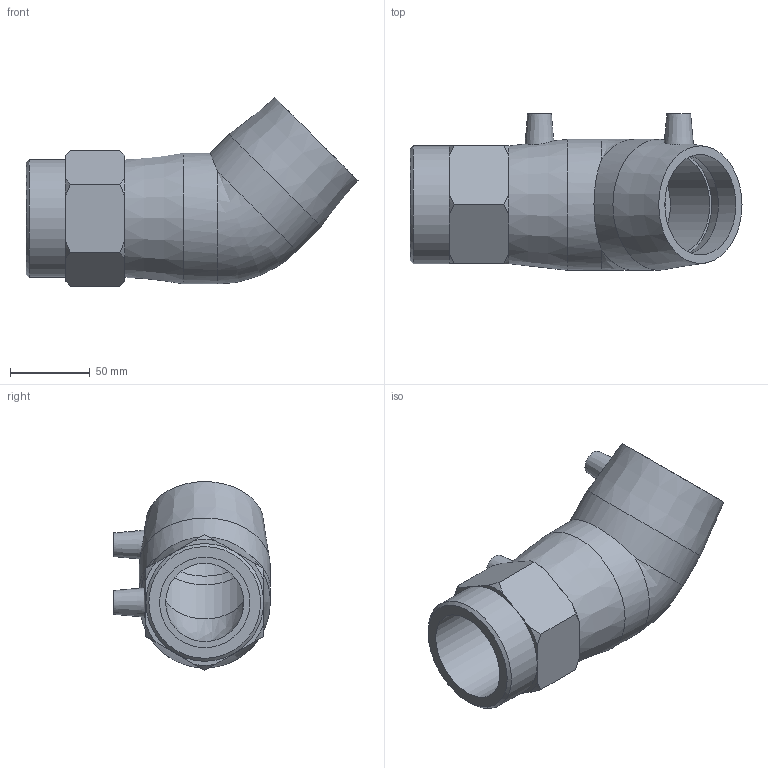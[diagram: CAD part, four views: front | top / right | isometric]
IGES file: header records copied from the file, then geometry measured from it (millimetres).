
Global section: file name: 493604063020N.ipt; native system: Autodesk Inventor 2015; preprocessor: unknown; author: KIM; date: 20200202.122506; units: millimetre
Bounding box: 208 x 98 x 118.37 mm (x, y, z)
Volume: 488053.1 mm3; surface area: 99830.4 mm2
Topology: 1 solids, 2 shells, 63 faces, 154 edges, 102 vertices
Faces by surface type: plane 28, cone 17, revolution 9, cylinder 8, bspline 1
Full cylindrical faces by diameter (mm): 4 x2, 63 x2, 73.8 x1, 82 x2
